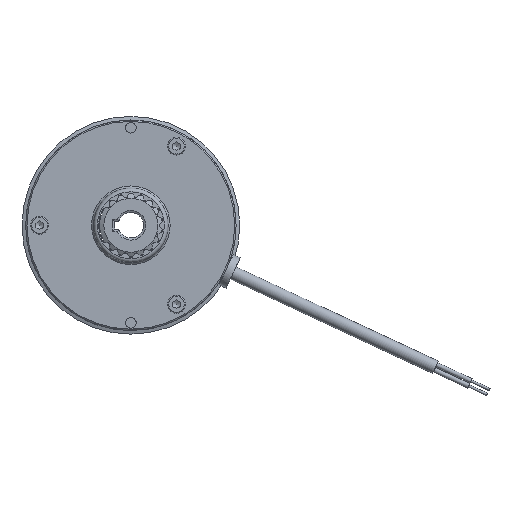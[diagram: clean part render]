
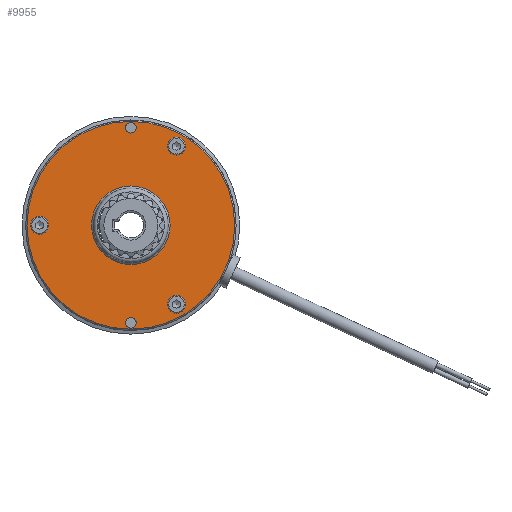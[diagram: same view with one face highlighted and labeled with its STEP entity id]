
A CAD part, left-side view. The second image highlights one B-rep face of the part: STEP entity #9955.
In plain terms, the highlighted planar face has unit normal (-1, 0, 0).
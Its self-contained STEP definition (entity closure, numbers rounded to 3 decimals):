
#155=FACE_BOUND('',#1277,.T.);
#156=FACE_BOUND('',#1278,.T.);
#157=FACE_BOUND('',#1279,.T.);
#158=FACE_BOUND('',#1280,.T.);
#159=FACE_BOUND('',#1281,.T.);
#160=FACE_BOUND('',#1282,.T.);
#336=PLANE('',#10955);
#760=FACE_OUTER_BOUND('',#1276,.T.);
#1276=EDGE_LOOP('',(#8291));
#1277=EDGE_LOOP('',(#8292,#8293));
#1278=EDGE_LOOP('',(#8294,#8295));
#1279=EDGE_LOOP('',(#8296));
#1280=EDGE_LOOP('',(#8297));
#1281=EDGE_LOOP('',(#8298));
#1282=EDGE_LOOP('',(#8299,#8300));
#2031=CIRCLE('',#10709,3.5);
#2032=CIRCLE('',#10710,3.5);
#2045=CIRCLE('',#10737,3.5);
#2046=CIRCLE('',#10738,3.5);
#2172=CIRCLE('',#10956,41.);
#2173=CIRCLE('',#10957,2.1);
#2174=CIRCLE('',#10958,2.1);
#2175=CIRCLE('',#10959,15.5);
#2176=CIRCLE('',#10960,3.5);
#2177=CIRCLE('',#10961,3.5);
#4029=VERTEX_POINT('',#19455);
#4030=VERTEX_POINT('',#19456);
#4056=VERTEX_POINT('',#19547);
#4057=VERTEX_POINT('',#19548);
#4243=VERTEX_POINT('',#20358);
#4244=VERTEX_POINT('',#20360);
#4245=VERTEX_POINT('',#20362);
#4246=VERTEX_POINT('',#20364);
#4247=VERTEX_POINT('',#20366);
#4248=VERTEX_POINT('',#20367);
#5318=EDGE_CURVE('',#4029,#4030,#2031,.T.);
#5319=EDGE_CURVE('',#4030,#4029,#2032,.T.);
#5355=EDGE_CURVE('',#4056,#4057,#2045,.T.);
#5356=EDGE_CURVE('',#4057,#4056,#2046,.T.);
#5637=EDGE_CURVE('',#4243,#4243,#2172,.T.);
#5638=EDGE_CURVE('',#4244,#4244,#2173,.T.);
#5639=EDGE_CURVE('',#4245,#4245,#2174,.T.);
#5640=EDGE_CURVE('',#4246,#4246,#2175,.T.);
#5641=EDGE_CURVE('',#4247,#4248,#2176,.T.);
#5642=EDGE_CURVE('',#4248,#4247,#2177,.T.);
#8291=ORIENTED_EDGE('',*,*,#5637,.F.);
#8292=ORIENTED_EDGE('',*,*,#5318,.T.);
#8293=ORIENTED_EDGE('',*,*,#5319,.T.);
#8294=ORIENTED_EDGE('',*,*,#5355,.T.);
#8295=ORIENTED_EDGE('',*,*,#5356,.T.);
#8296=ORIENTED_EDGE('',*,*,#5638,.T.);
#8297=ORIENTED_EDGE('',*,*,#5639,.T.);
#8298=ORIENTED_EDGE('',*,*,#5640,.T.);
#8299=ORIENTED_EDGE('',*,*,#5641,.T.);
#8300=ORIENTED_EDGE('',*,*,#5642,.T.);
#9955=ADVANCED_FACE('',(#760,#155,#156,#157,#158,#159,#160),#336,.T.);
#10709=AXIS2_PLACEMENT_3D('',#19457,#12705,#12706);
#10710=AXIS2_PLACEMENT_3D('',#19458,#12707,#12708);
#10737=AXIS2_PLACEMENT_3D('',#19549,#12777,#12778);
#10738=AXIS2_PLACEMENT_3D('',#19550,#12779,#12780);
#10955=AXIS2_PLACEMENT_3D('',#20357,#13340,#13341);
#10956=AXIS2_PLACEMENT_3D('',#20359,#13342,#13343);
#10957=AXIS2_PLACEMENT_3D('',#20361,#13344,#13345);
#10958=AXIS2_PLACEMENT_3D('',#20363,#13346,#13347);
#10959=AXIS2_PLACEMENT_3D('',#20365,#13348,#13349);
#10960=AXIS2_PLACEMENT_3D('',#20368,#13350,#13351);
#10961=AXIS2_PLACEMENT_3D('',#20369,#13352,#13353);
#12705=DIRECTION('center_axis',(1.,0.,0.));
#12706=DIRECTION('ref_axis',(0.,0.5,-0.866));
#12707=DIRECTION('center_axis',(1.,0.,0.));
#12708=DIRECTION('ref_axis',(0.,0.5,-0.866));
#12777=DIRECTION('center_axis',(1.,0.,0.));
#12778=DIRECTION('ref_axis',(0.,0.5,-0.866));
#12779=DIRECTION('center_axis',(1.,0.,0.));
#12780=DIRECTION('ref_axis',(0.,0.5,-0.866));
#13340=DIRECTION('center_axis',(-1.,0.,0.));
#13341=DIRECTION('ref_axis',(0.,0.,1.));
#13342=DIRECTION('center_axis',(1.,0.,0.));
#13343=DIRECTION('ref_axis',(0.,-1.,0.));
#13344=DIRECTION('center_axis',(1.,0.,0.));
#13345=DIRECTION('ref_axis',(0.,0.,
-1.));
#13346=DIRECTION('center_axis',(1.,0.,0.));
#13347=DIRECTION('ref_axis',(0.,0.,
-1.));
#13348=DIRECTION('center_axis',(1.,0.,0.));
#13349=DIRECTION('ref_axis',(0.,0.,1.));
#13350=DIRECTION('center_axis',(1.,0.,0.));
#13351=DIRECTION('ref_axis',(0.,0.5,0.866));
#13352=DIRECTION('center_axis',(1.,0.,0.));
#13353=DIRECTION('ref_axis',(0.,0.5,0.866));
#19455=CARTESIAN_POINT('',(-18.7,-16.25,-34.208));
#19456=CARTESIAN_POINT('',(-18.7,-19.75,-28.146));
#19457=CARTESIAN_POINT('Origin',(-18.7,-18.,-31.177));
#19458=CARTESIAN_POINT('Origin',(-18.7,-18.,-31.177));
#19547=CARTESIAN_POINT('',(-18.7,-16.25,28.146));
#19548=CARTESIAN_POINT('',(-18.7,-19.75,34.208));
#19549=CARTESIAN_POINT('Origin',(-18.7,-18.,31.177));
#19550=CARTESIAN_POINT('Origin',(-18.7,-18.,31.177));
#20357=CARTESIAN_POINT('Origin',(-18.7,20.75,0.));
#20358=CARTESIAN_POINT('',(-18.7,41.,0.));
#20359=CARTESIAN_POINT('Origin',(-18.7,0.,0.));
#20360=CARTESIAN_POINT('',(-18.7,0.,40.6));
#20361=CARTESIAN_POINT('Origin',(-18.7,0.,38.5));
#20362=CARTESIAN_POINT('',(-18.7,0.,-36.4));
#20363=CARTESIAN_POINT('Origin',(-18.7,0.,-38.5));
#20364=CARTESIAN_POINT('',(-18.7,0.,-15.5));
#20365=CARTESIAN_POINT('Origin',(-18.7,0.,0.));
#20366=CARTESIAN_POINT('',(-18.7,37.75,3.031));
#20367=CARTESIAN_POINT('',(-18.7,34.25,-3.031));
#20368=CARTESIAN_POINT('Origin',(-18.7,36.,0.));
#20369=CARTESIAN_POINT('Origin',(-18.7,36.,0.));
